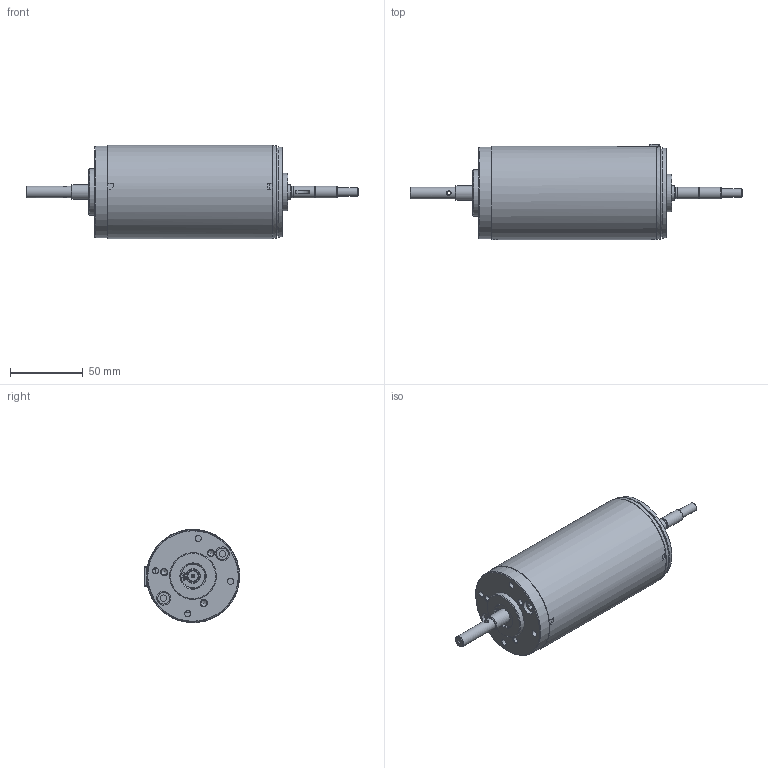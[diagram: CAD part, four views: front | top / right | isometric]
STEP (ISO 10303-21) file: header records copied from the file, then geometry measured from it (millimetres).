
FILE_DESCRIPTION (( 'STEP AP214' ), '1' );
FILE_NAME ('Motor PGK63-60.STEP', '2019-06-21T10:04:07', ( 'abenguiza' ), ( 'Microsoft' ), 'SwSTEP 2.0', 'SolidWorks 2017', '' );
FILE_SCHEMA (( 'AUTOMOTIVE_DESIGN' ));
Length unit declared in the file: millimetre
Products named in the file (1): Motor PGK63-60
Bounding box: 227.43 x 65.17 x 63.86 mm (x, y, z)
Volume: 143276 mm3; surface area: 81590.2 mm2
Topology: 11 solids, 11 shells, 343 faces, 812 edges, 527 vertices
Faces by surface type: plane 169, cylinder 111, cone 51, torus 11, sphere 1
Full cylindrical faces by diameter (mm): 1.25 x1, 1.5 x2, 2.5 x5, 2.695 x1, 3 x1, 3.3 x3, 3.5 x2, 4.2 x9, 4.75 x2, 5 x2, 5.2 x2, 6 x1, 7 x1, 7.6 x1, 7.7 x1, 8 x5, 9.5 x5, 10 x4, 10.2 x1, 12 x1, 17 x1, 18 x1, 22 x5, 23.2 x1, 26 x1, 29 x1, 32 x1, 38 x1, 57.8 x1, 58.3 x2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
Entity records: 13102 total; most frequent: CARTESIAN_POINT 1681, DIRECTION 1629, ORIENTED_EDGE 1306, AXIS2_PLACEMENT_3D 657, EDGE_CURVE 653, EDGE_LOOP 546, VERTEX_POINT 493, FACE_OUTER_BOUND 424
